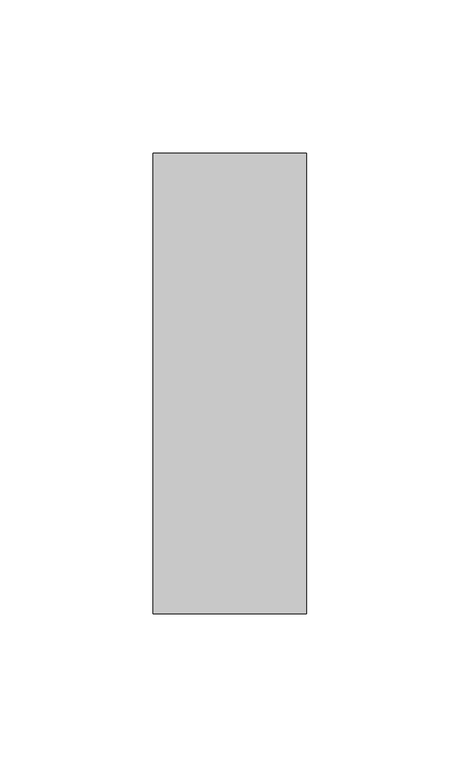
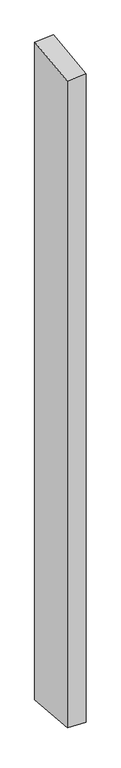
"""IFC4 building model written with IfcOpenShell, lengths in millimetres: member geometry, Прямоугольный импост : 50 x 150 мм."""

from ifc_helpers import new_model, si_unit, origin, place, context, project, spatial, faceted_brep, source, transform, mapped, element, save


def member_0775d96c(model_context):
    return source(origin(), model_context, "Body", "Brep", [
        faceted_brep([(-25.0, 75.0, 7.8645891), (25.0, 75.0, 10.4765805), (25.0, 75.0, -1839.9726864), (-25.0, 75.0, -1837.9032601), (-25.0, -75.0, -10.4765805), (-25.0, -75.0, -1824.5652209), (25.0, -75.0, -7.8645891), (25.0, -75.0, -1826.6346473)], [[[0, 1, 2, 3]], [[4, 0, 3, 5]], [[6, 4, 5, 7]], [[1, 6, 7, 2]], [[1, 0, 4, 6]], [[2, 7, 5, 3]]]),
    ])


if __name__ == "__main__":
    model = new_model("IFC4")
    model_context = context("Model", 3, world=origin())
    ifc_project = project(units=[si_unit("LENGTHUNIT", "METRE", prefix="MILLI")], contexts=[model_context])
    site = spatial("IfcSite", under=ifc_project)
    building = spatial("IfcBuilding", under=site)
    placement = place(None, origin())
    member_shape = member_0775d96c(model_context)
    element("IfcMember", 1, ObjectType="Прямоугольный импост : 50 x 150 мм", at=placement, inside=building, context=model_context, shape_type="MappedRepresentation", body=[
        mapped(member_shape, transform((0.0, 0.0, 0.0), x_axis=(1.0, 0.0, 0.0), y_axis=(0.0, 1.0, 0.0), z_axis=(0.0, 0.0, 1.0))),
    ])
    save(model, "model.ifc")
